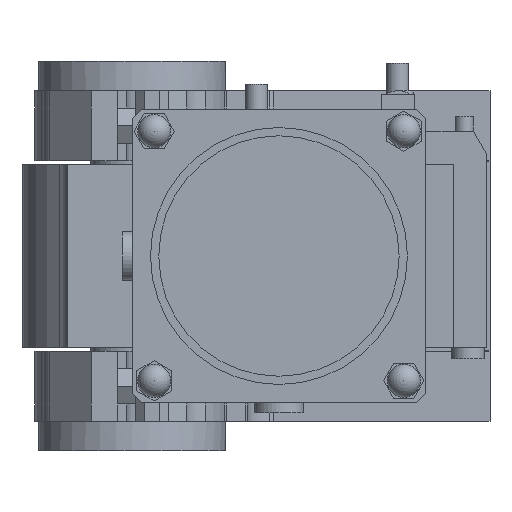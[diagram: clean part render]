
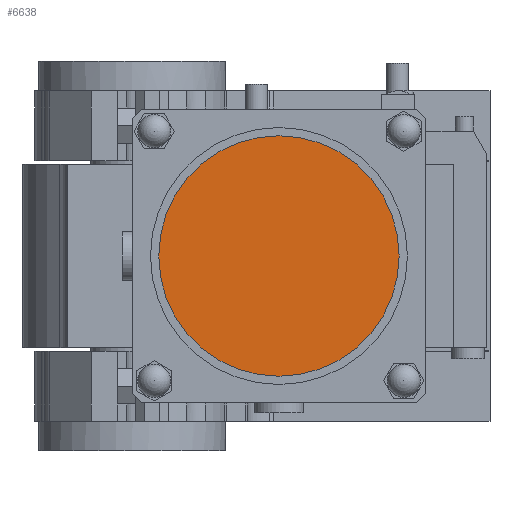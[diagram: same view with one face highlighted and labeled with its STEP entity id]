
A CAD part, front view. The second image highlights one B-rep face of the part: STEP entity #6638.
In plain terms, the highlighted planar face has unit normal (0, -1, 0).
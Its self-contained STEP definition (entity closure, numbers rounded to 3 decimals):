
#1524=PLANE('',#7335);
#2034=FACE_OUTER_BOUND('',#2536,.T.);
#2536=EDGE_LOOP('',(#5330));
#2877=CIRCLE('',#7246,65.5);
#3221=VERTEX_POINT('',#10231);
#3913=EDGE_CURVE('',#3221,#3221,#2877,.T.);
#5330=ORIENTED_EDGE('',*,*,#3913,.T.);
#6638=ADVANCED_FACE('',(#2034),#1524,.T.);
#7246=AXIS2_PLACEMENT_3D('',#10232,#8278,#8279);
#7335=AXIS2_PLACEMENT_3D('',#10544,#8576,#8577);
#8278=DIRECTION('center_axis',(0.,-1.,0.));
#8279=DIRECTION('ref_axis',(0.,0.,-1.));
#8576=DIRECTION('center_axis',(0.,-1.,0.));
#8577=DIRECTION('ref_axis',(0.,0.,-1.));
#10231=CARTESIAN_POINT('',(80.,-612.5,65.5));
#10232=CARTESIAN_POINT('Origin',(80.,-612.5,0.));
#10544=CARTESIAN_POINT('Origin',(80.,-612.5,0.));
